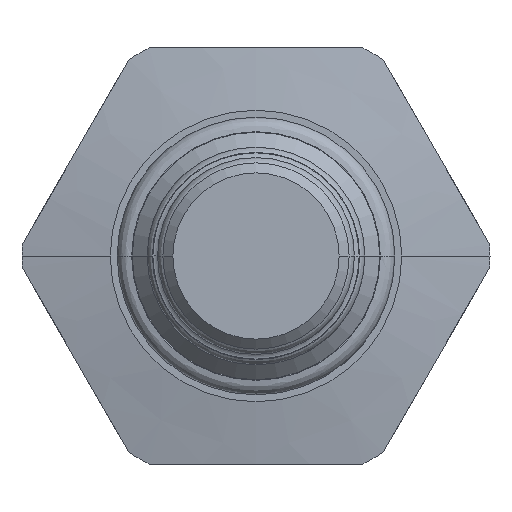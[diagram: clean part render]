
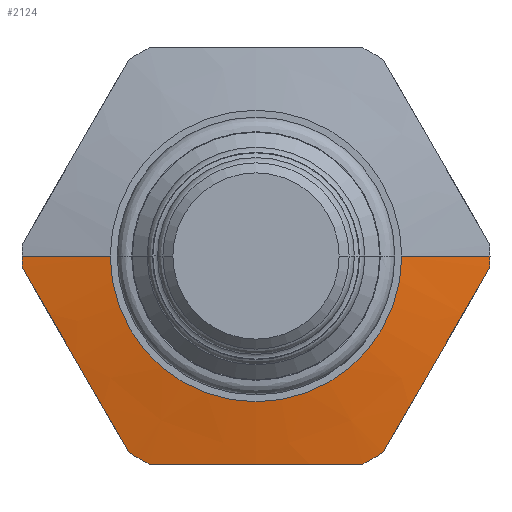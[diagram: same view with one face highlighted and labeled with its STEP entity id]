
A CAD part, front view. The second image highlights one B-rep face of the part: STEP entity #2124.
In plain terms, the highlighted conical face has half-angle 80 degrees and reference radius 14.478 mm.
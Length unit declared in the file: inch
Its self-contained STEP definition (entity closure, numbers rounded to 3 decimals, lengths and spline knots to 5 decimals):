
#88=CARTESIAN_POINT('',(-0.38089,0.07673,
-0.59028));
#89=CARTESIAN_POINT('',(-0.38813,0.07556,
-0.57774));
#90=CARTESIAN_POINT('',(-0.40254,0.07337,
-0.55279));
#91=CARTESIAN_POINT('',(-0.42389,0.07051,
-0.51581));
#92=CARTESIAN_POINT('',(-0.44515,0.06808,
-0.47898));
#93=CARTESIAN_POINT('',(-0.4664,0.0661,
-0.44217));
#94=CARTESIAN_POINT('',(-0.48771,0.06459,
-0.40526));
#95=CARTESIAN_POINT('',(-0.50909,0.06356,
-0.36822));
#96=CARTESIAN_POINT('',(-0.53053,0.06304,
-0.33109));
#97=CARTESIAN_POINT('',(-0.552,0.06304,
-0.29391));
#98=CARTESIAN_POINT('',(-0.57344,0.06356,
-0.25678));
#99=CARTESIAN_POINT('',(-0.59482,0.06459,
-0.21974));
#100=CARTESIAN_POINT('',(-0.61613,0.0661,
-0.18283));
#101=CARTESIAN_POINT('',(-0.63739,0.06808,
-0.14602));
#102=CARTESIAN_POINT('',(-0.65865,0.07051,
-0.10919));
#103=CARTESIAN_POINT('',(-0.67999,0.07337,
-0.07221));
#104=CARTESIAN_POINT('',(-0.6944,0.07556,
-0.04726));
#105=CARTESIAN_POINT('',(-0.70164,0.07673,
-0.03472));
#107=CARTESIAN_POINT('',(0.,0.07673,0.));
#108=DIRECTION('',(0.,1.,0.));
#109=DIRECTION('',(-0.999,0.,-0.049));
#110=AXIS2_PLACEMENT_3D('',#107,#108,#109);
#112=CARTESIAN_POINT('',(0.,0.07673,0.));
#113=DIRECTION('',(0.,1.,0.));
#114=DIRECTION('',(1.,0.,0.));
#115=AXIS2_PLACEMENT_3D('',#112,#113,#114);
#117=CARTESIAN_POINT('',(0.,0.07673,0.));
#118=DIRECTION('',(0.,1.,0.));
#119=DIRECTION('',(0.542,0.,-0.84));
#120=AXIS2_PLACEMENT_3D('',#117,#118,#119);
#122=CARTESIAN_POINT('',(0.,0.07673,0.));
#123=DIRECTION('',(0.,1.,0.));
#124=DIRECTION('',(-0.457,0.,-0.89));
#125=AXIS2_PLACEMENT_3D('',#122,#123,#124);
#234=DIRECTION('',(-0.985,-0.174,0.));
#235=VECTOR('',#234,0.26909);
#236=CARTESIAN_POINT('',(0.7025,0.07673,0.));
#237=LINE('',#236,#235);
#238=DIRECTION('',(0.985,-0.174,0.));
#239=VECTOR('',#238,0.26909);
#240=CARTESIAN_POINT('',(-0.7025,0.07673,0.));
#241=LINE('',#240,#239);
#340=CARTESIAN_POINT('',(0.70164,0.07673,
-0.03472));
#341=CARTESIAN_POINT('',(0.6944,0.07556,
-0.04726));
#342=CARTESIAN_POINT('',(0.67999,0.07337,
-0.07221));
#343=CARTESIAN_POINT('',(0.65865,0.07051,
-0.10919));
#344=CARTESIAN_POINT('',(0.63739,0.06808,
-0.14602));
#345=CARTESIAN_POINT('',(0.61613,0.0661,
-0.18283));
#346=CARTESIAN_POINT('',(0.59482,0.06459,
-0.21974));
#347=CARTESIAN_POINT('',(0.57344,0.06356,
-0.25678));
#348=CARTESIAN_POINT('',(0.552,0.06304,
-0.29391));
#349=CARTESIAN_POINT('',(0.53053,0.06304,
-0.33109));
#350=CARTESIAN_POINT('',(0.50909,0.06356,
-0.36822));
#351=CARTESIAN_POINT('',(0.48771,0.06459,
-0.40526));
#352=CARTESIAN_POINT('',(0.4664,0.0661,
-0.44217));
#353=CARTESIAN_POINT('',(0.44515,0.06808,
-0.47898));
#354=CARTESIAN_POINT('',(0.42389,0.07051,
-0.51581));
#355=CARTESIAN_POINT('',(0.40254,0.07337,
-0.55279));
#356=CARTESIAN_POINT('',(0.38813,0.07556,
-0.57774));
#357=CARTESIAN_POINT('',(0.38089,0.07673,
-0.59028));
#391=CARTESIAN_POINT('',(0.32075,0.07673,-0.625));
#392=CARTESIAN_POINT('',(0.30627,0.07556,-0.625));
#393=CARTESIAN_POINT('',(0.27746,0.07337,-0.625));
#394=CARTESIAN_POINT('',(0.23476,0.07051,-0.625));
#395=CARTESIAN_POINT('',(0.19224,0.06808,-0.625));
#396=CARTESIAN_POINT('',(0.14973,0.0661,-0.625));
#397=CARTESIAN_POINT('',(0.10711,0.06459,-0.625));
#398=CARTESIAN_POINT('',(0.06434,0.06356,-0.625));
#399=CARTESIAN_POINT('',(0.02146,0.06304,-0.625));
#400=CARTESIAN_POINT('',(-0.02146,0.06304,-0.625));
#401=CARTESIAN_POINT('',(-0.06434,0.06356,-0.625));
#402=CARTESIAN_POINT('',(-0.10711,0.06459,-0.625));
#403=CARTESIAN_POINT('',(-0.14973,0.0661,-0.625));
#404=CARTESIAN_POINT('',(-0.19224,0.06808,-0.625));
#405=CARTESIAN_POINT('',(-0.23476,0.07051,-0.625));
#406=CARTESIAN_POINT('',(-0.27746,0.07337,-0.625));
#407=CARTESIAN_POINT('',(-0.30627,0.07556,-0.625));
#408=CARTESIAN_POINT('',(-0.32075,0.07673,-0.625));
#433=CARTESIAN_POINT('',(0.,0.03,0.));
#434=DIRECTION('',(0.,1.,0.));
#435=DIRECTION('',(1.,0.,0.));
#436=AXIS2_PLACEMENT_3D('',#433,#434,#435);
#1809=CARTESIAN_POINT('',(0.4375,0.03,0.));
#1811=VERTEX_POINT('',#1809);
#1817=CARTESIAN_POINT('',(-0.4375,0.03,0.));
#1819=VERTEX_POINT('',#1817);
#1829=CARTESIAN_POINT('',(0.7025,0.07673,0.));
#1830=VERTEX_POINT('',#1829);
#1831=CARTESIAN_POINT('',(-0.7025,0.07673,0.));
#1832=VERTEX_POINT('',#1831);
#1885=CARTESIAN_POINT('',(-0.38089,0.07673,
-0.59028));
#1887=VERTEX_POINT('',#1885);
#1889=CARTESIAN_POINT('',(-0.70164,0.07673,
-0.03472));
#1891=VERTEX_POINT('',#1889);
#1893=CARTESIAN_POINT('',(0.32075,0.07673,-0.625));
#1895=VERTEX_POINT('',#1893);
#1897=CARTESIAN_POINT('',(-0.32075,0.07673,-0.625));
#1899=VERTEX_POINT('',#1897);
#1901=CARTESIAN_POINT('',(0.70164,0.07673,
-0.03472));
#1903=VERTEX_POINT('',#1901);
#1905=CARTESIAN_POINT('',(0.38089,0.07673,
-0.59028));
#1907=VERTEX_POINT('',#1905);
#2099=CARTESIAN_POINT('',(0.,0.05336,0.));
#2100=DIRECTION('',(0.,1.,0.));
#2101=DIRECTION('',(1.,0.,0.));
#2102=AXIS2_PLACEMENT_3D('',#2099,#2100,#2101);
#2103=CONICAL_SURFACE('',#2102,0.57,80.);
#2104=ORIENTED_EDGE('',*,*,#2079,.T.);
#2106=ORIENTED_EDGE('',*,*,#2105,.T.);
#2108=ORIENTED_EDGE('',*,*,#2107,.T.);
#2110=ORIENTED_EDGE('',*,*,#2109,.F.);
#2112=ORIENTED_EDGE('',*,*,#2111,.F.);
#2114=ORIENTED_EDGE('',*,*,#2113,.T.);
#2116=ORIENTED_EDGE('',*,*,#2115,.T.);
#2118=ORIENTED_EDGE('',*,*,#2117,.T.);
#2120=ORIENTED_EDGE('',*,*,#2119,.T.);
#2121=ORIENTED_EDGE('',*,*,#2090,.T.);
#2122=EDGE_LOOP('',(#2104,#2106,#2108,#2110,#2112,#2114,#2116,#2118,#2120,
#2121));
#2123=FACE_OUTER_BOUND('',#2122,.F.);
#2124=ADVANCED_FACE('',(#2123),#2103,.T.);
#106=B_SPLINE_CURVE_WITH_KNOTS('',3,(#88,#89,#90,#91,#92,#93,#94,#95,#96,#97,
#98,#99,#100,#101,#102,#103,#104,#105),.UNSPECIFIED.,.F.,.F.,(4,1,1,1,1,1,1,1,1,
1,1,1,1,1,1,4),(0.,0.06667,0.13333,0.2,
0.26667,0.33333,0.4,0.46667,0.53333,
0.6,0.66667,0.73333,0.8,0.86667,
0.93333,1.),.UNSPECIFIED.);
#111=CIRCLE('',#110,0.7025);
#116=CIRCLE('',#115,0.7025);
#121=CIRCLE('',#120,0.7025);
#126=CIRCLE('',#125,0.7025);
#358=B_SPLINE_CURVE_WITH_KNOTS('',3,(#340,#341,#342,#343,#344,#345,#346,#347,
#348,#349,#350,#351,#352,#353,#354,#355,#356,#357),.UNSPECIFIED.,.F.,.F.,(4,1,1,
1,1,1,1,1,1,1,1,1,1,1,1,4),(0.,0.06667,0.13333,0.2,
0.26667,0.33333,0.4,0.46667,0.53333,
0.6,0.66667,0.73333,0.8,0.86667,
0.93333,1.),.UNSPECIFIED.);
#409=B_SPLINE_CURVE_WITH_KNOTS('',3,(#391,#392,#393,#394,#395,#396,#397,#398,
#399,#400,#401,#402,#403,#404,#405,#406,#407,#408),.UNSPECIFIED.,.F.,.F.,(4,1,1,
1,1,1,1,1,1,1,1,1,1,1,1,4),(0.,0.06667,0.13333,0.2,
0.26667,0.33333,0.4,0.46667,0.53333,
0.6,0.66667,0.73333,0.8,0.86667,
0.93333,1.),.UNSPECIFIED.);
#437=CIRCLE('',#436,0.4375);
#2079=EDGE_CURVE('',#1887,#1891,#106,.T.);
#2090=EDGE_CURVE('',#1899,#1887,#126,.T.);
#2105=EDGE_CURVE('',#1891,#1832,#111,.T.);
#2107=EDGE_CURVE('',#1832,#1819,#241,.T.);
#2109=EDGE_CURVE('',#1811,#1819,#437,.T.);
#2111=EDGE_CURVE('',#1830,#1811,#237,.T.);
#2113=EDGE_CURVE('',#1830,#1903,#116,.T.);
#2115=EDGE_CURVE('',#1903,#1907,#358,.T.);
#2117=EDGE_CURVE('',#1907,#1895,#121,.T.);
#2119=EDGE_CURVE('',#1895,#1899,#409,.T.);
